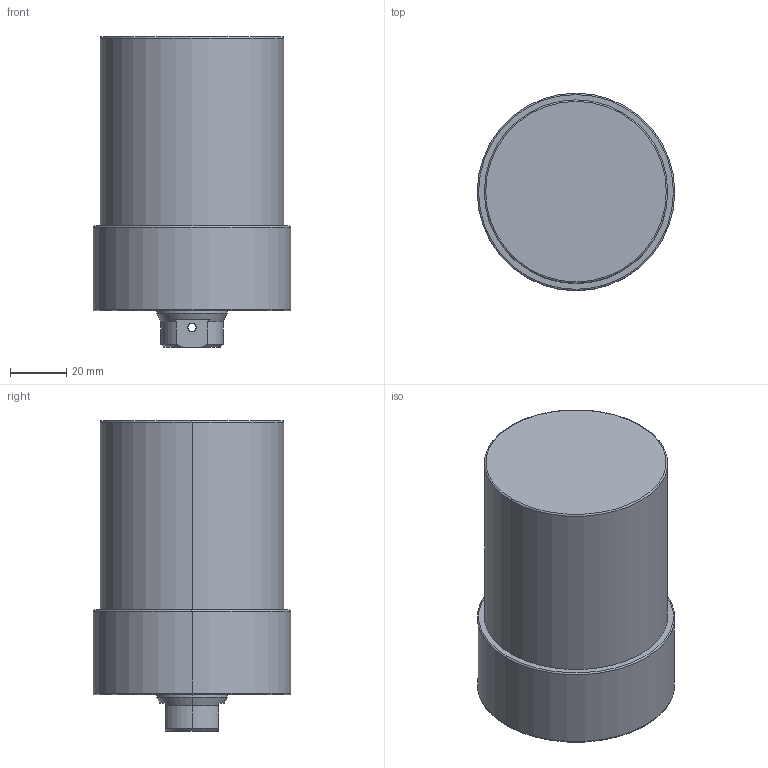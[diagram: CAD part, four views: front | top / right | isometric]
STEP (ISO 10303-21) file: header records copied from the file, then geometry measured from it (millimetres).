
FILE_DESCRIPTION (( 'STEP AP203' ), '1' );
FILE_NAME ('CLLU-065GB-050.STEP', '2020-01-06T08:45:27', ( '' ), ( '' ), 'SwSTEP 2.0', 'SolidWorks 2015', '' );
FILE_SCHEMA (( 'CONFIG_CONTROL_DESIGN' ));
Length unit declared in the file: millimetre
Products named in the file (1): CLLU-065GB-050
Bounding box: 70 x 70 x 110 mm (x, y, z)
Volume: 338254.4 mm3; surface area: 30902.1 mm2
Topology: 1 solids, 1 shells, 68 faces, 157 edges, 90 vertices
Faces by surface type: cylinder 27, cone 25, plane 10, torus 6
Entity records: 2051 total; most frequent: CARTESIAN_POINT 438, DIRECTION 352, ORIENTED_EDGE 294, AXIS2_PLACEMENT_3D 148, EDGE_CURVE 147, VERTEX_POINT 90, EDGE_LOOP 81, CIRCLE 79
